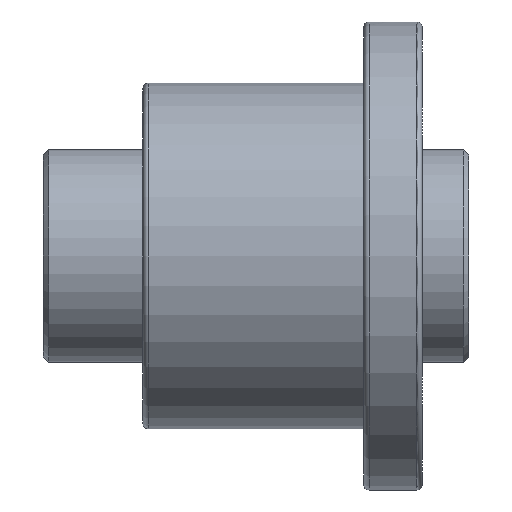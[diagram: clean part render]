
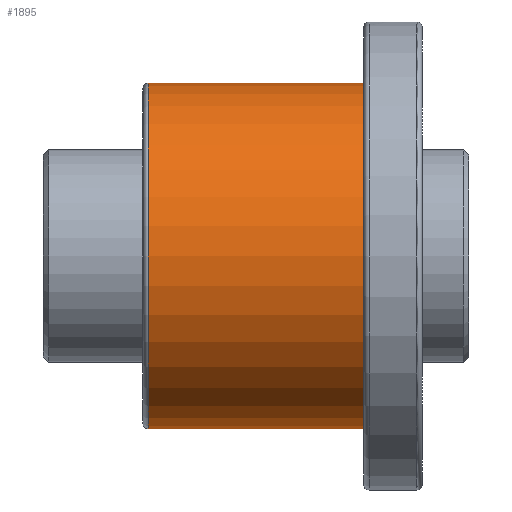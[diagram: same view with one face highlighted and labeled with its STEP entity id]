
A CAD part, front view. The second image highlights one B-rep face of the part: STEP entity #1895.
In plain terms, the highlighted cylindrical face has radius 65 mm (diameter 130 mm), a full revolution.
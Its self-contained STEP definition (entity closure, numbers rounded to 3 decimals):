
#29 = FACE_OUTER_BOUND ( 'NONE', #2064, .T. ) ;
#55 = ORIENTED_EDGE ( 'NONE', *, *, #279, .T. ) ;
#195 = DIRECTION ( 'NONE',  ( 0., 1., 0. ) ) ;
#279 = EDGE_CURVE ( 'NONE', #2421, #2421, #2538, .T. ) ;
#388 = DIRECTION ( 'NONE',  ( 1., 0., 0. ) ) ;
#416 = DIRECTION ( 'NONE',  ( 1., 0., 0. ) ) ;
#457 = CARTESIAN_POINT ( 'NONE',  ( -120.5, 65., 0. ) ) ;
#465 = CIRCLE ( 'NONE', #2185, 65. ) ;
#479 = CYLINDRICAL_SURFACE ( 'NONE', #2127, 65. ) ;
#556 = EDGE_CURVE ( 'NONE', #1854, #1854, #465, .T. ) ;
#612 = CARTESIAN_POINT ( 'NONE',  ( -120.5, 0., 0. ) ) ;
#942 = CARTESIAN_POINT ( 'NONE',  ( -140., 0., 0. ) ) ;
#1134 = DIRECTION ( 'NONE',  ( 1., 0., 0. ) ) ;
#1173 = ORIENTED_EDGE ( 'NONE', *, *, #556, .F. ) ;
#1373 = CARTESIAN_POINT ( 'NONE',  ( -39.5, 65., 0. ) ) ;
#1380 = DIRECTION ( 'NONE',  ( 0., 1., 0. ) ) ;
#1700 = DIRECTION ( 'NONE',  ( 0., 1., 0. ) ) ;
#1854 = VERTEX_POINT ( 'NONE', #1373 ) ;
#1895 = ADVANCED_FACE ( 'NONE', ( #2696, #29 ), #479, .T. ) ;
#2064 = EDGE_LOOP ( 'NONE', ( #55 ) ) ;
#2077 = EDGE_LOOP ( 'NONE', ( #1173 ) ) ;
#2127 = AXIS2_PLACEMENT_3D ( 'NONE', #942, #1134, #1380 ) ;
#2185 = AXIS2_PLACEMENT_3D ( 'NONE', #2449, #416, #195 ) ;
#2421 = VERTEX_POINT ( 'NONE', #457 ) ;
#2449 = CARTESIAN_POINT ( 'NONE',  ( -39.5, 0., 0. ) ) ;
#2455 = AXIS2_PLACEMENT_3D ( 'NONE', #612, #388, #1700 ) ;
#2538 = CIRCLE ( 'NONE', #2455, 65. ) ;
#2696 = FACE_OUTER_BOUND ( 'NONE', #2077, .T. ) ;
